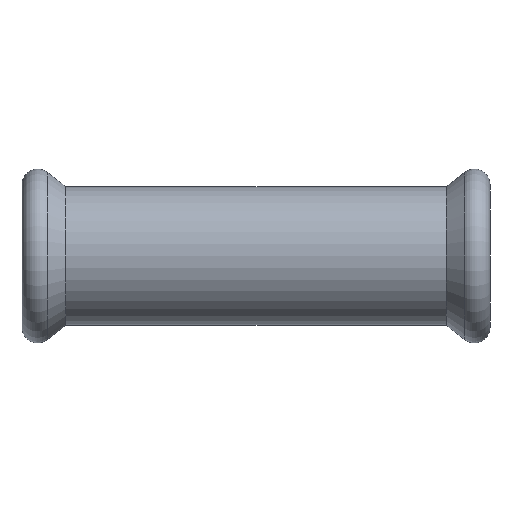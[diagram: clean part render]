
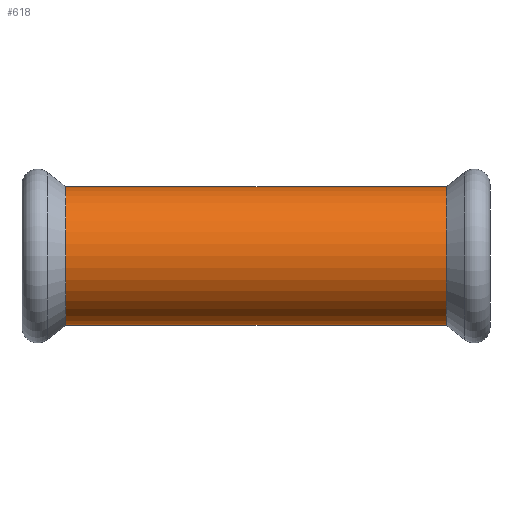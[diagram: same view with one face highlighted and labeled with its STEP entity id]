
A CAD part, front view. The second image highlights one B-rep face of the part: STEP entity #618.
In plain terms, the highlighted cylindrical face has radius 12.6 mm (diameter 25.2 mm), a partial arc.
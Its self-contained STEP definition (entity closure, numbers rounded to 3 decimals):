
#110 = ORIENTED_EDGE ( 'NONE', *, *, #181, .T. ) ;
#118 = CARTESIAN_POINT ( 'NONE',  ( -34.574, 0., -12.6 ) ) ;
#121 = DIRECTION ( 'NONE',  ( 0., 0., 1. ) ) ;
#130 = CARTESIAN_POINT ( 'NONE',  ( -34.574, 0., 12.6 ) ) ;
#144 = AXIS2_PLACEMENT_3D ( 'NONE', #186, #577, #939 ) ;
#147 = CYLINDRICAL_SURFACE ( 'NONE', #144, 12.6 ) ;
#159 = EDGE_CURVE ( 'NONE', #785, #308, #1110, .T. ) ;
#181 = EDGE_CURVE ( 'NONE', #308, #891, #221, .T. ) ;
#186 = CARTESIAN_POINT ( 'NONE',  ( -84.842, 0., 0. ) ) ;
#221 = LINE ( 'NONE', #719, #945 ) ;
#236 = AXIS2_PLACEMENT_3D ( 'NONE', #1178, #997, #121 ) ;
#260 = CARTESIAN_POINT ( 'NONE',  ( -84.842, 0., -12.6 ) ) ;
#308 = VERTEX_POINT ( 'NONE', #328 ) ;
#328 = CARTESIAN_POINT ( 'NONE',  ( 34.574, 0., 12.6 ) ) ;
#359 = VECTOR ( 'NONE', #658, 1000. ) ;
#393 = ORIENTED_EDGE ( 'NONE', *, *, #159, .T. ) ;
#400 = EDGE_CURVE ( 'NONE', #785, #458, #663, .T. ) ;
#418 = AXIS2_PLACEMENT_3D ( 'NONE', #836, #454, #956 ) ;
#438 = FACE_OUTER_BOUND ( 'NONE', #1081, .T. ) ;
#454 = DIRECTION ( 'NONE',  ( -1., 0., 0. ) ) ;
#458 = VERTEX_POINT ( 'NONE', #118 ) ;
#509 = ORIENTED_EDGE ( 'NONE', *, *, #400, .F. ) ;
#577 = DIRECTION ( 'NONE',  ( -1., 0., 0. ) ) ;
#618 = ADVANCED_FACE ( 'NONE', ( #438 ), #147, .T. ) ;
#658 = DIRECTION ( 'NONE',  ( -1., 0., 0. ) ) ;
#663 = LINE ( 'NONE', #260, #359 ) ;
#682 = CARTESIAN_POINT ( 'NONE',  ( 34.574, 0., -12.6 ) ) ;
#719 = CARTESIAN_POINT ( 'NONE',  ( -84.842, 0., 12.6 ) ) ;
#785 = VERTEX_POINT ( 'NONE', #682 ) ;
#836 = CARTESIAN_POINT ( 'NONE',  ( -34.574, 0., 0. ) ) ;
#891 = VERTEX_POINT ( 'NONE', #130 ) ;
#939 = DIRECTION ( 'NONE',  ( 0., 0., 1. ) ) ;
#945 = VECTOR ( 'NONE', #1010, 1000. ) ;
#956 = DIRECTION ( 'NONE',  ( 0., 0., 1. ) ) ;
#997 = DIRECTION ( 'NONE',  ( -1., 0., 0. ) ) ;
#1010 = DIRECTION ( 'NONE',  ( -1., 0., 0. ) ) ;
#1015 = CIRCLE ( 'NONE', #418, 12.6 ) ;
#1081 = EDGE_LOOP ( 'NONE', ( #509, #393, #110, #1145 ) ) ;
#1104 = EDGE_CURVE ( 'NONE', #458, #891, #1015, .T. ) ;
#1110 = CIRCLE ( 'NONE', #236, 12.6 ) ;
#1145 = ORIENTED_EDGE ( 'NONE', *, *, #1104, .F. ) ;
#1178 = CARTESIAN_POINT ( 'NONE',  ( 34.574, 0., 0. ) ) ;
